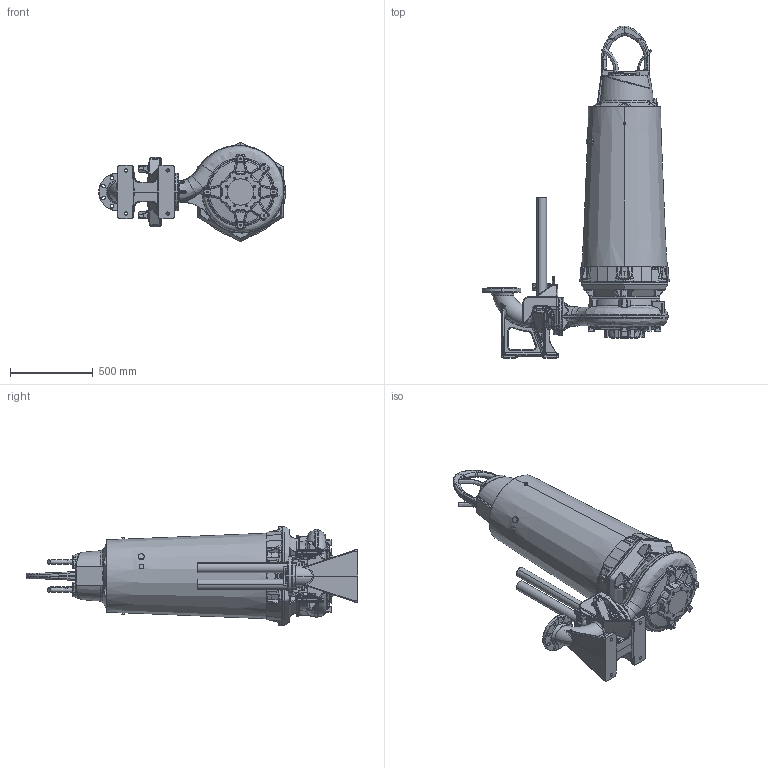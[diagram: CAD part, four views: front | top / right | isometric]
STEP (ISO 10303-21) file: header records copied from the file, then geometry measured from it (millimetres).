
FILE_DESCRIPTION (( 'STEP AP214' ), '1' );
FILE_NAME ('PE5_XFP100J-CH1_WET 2guide_B_NG2.STEP', '2017-02-23T06:54:28', ( '' ), ( '' ), 'SwSTEP 2.0', 'SolidWorks 2017', '' );
FILE_SCHEMA (( 'AUTOMOTIVE_DESIGN' ));
Length unit declared in the file: millimetre
Products named in the file (1): PE5_XFP100J-CH1_WET 2guide_B_NG2
Bounding box: 1124.29 x 2001.47 x 595.59 mm (x, y, z)
Volume: 282849276 mm3; surface area: 4559745.1 mm2
Topology: 4 solids, 12 shells, 4143 faces, 10194 edges, 5979 vertices
Faces by surface type: bspline 1393, cylinder 976, plane 858, torus 422, cone 351, sphere 143
Entity records: 268297 total; most frequent: CARTESIAN_POINT 136762, ORIENTED_EDGE 20056, DIRECTION 15462, EDGE_CURVE 10028, AXIS2_PLACEMENT_3D 6300, VERTEX_POINT 5975, EDGE_LOOP 4285, UNCERTAINTY_MEASURE_WITH_UNIT 4149
